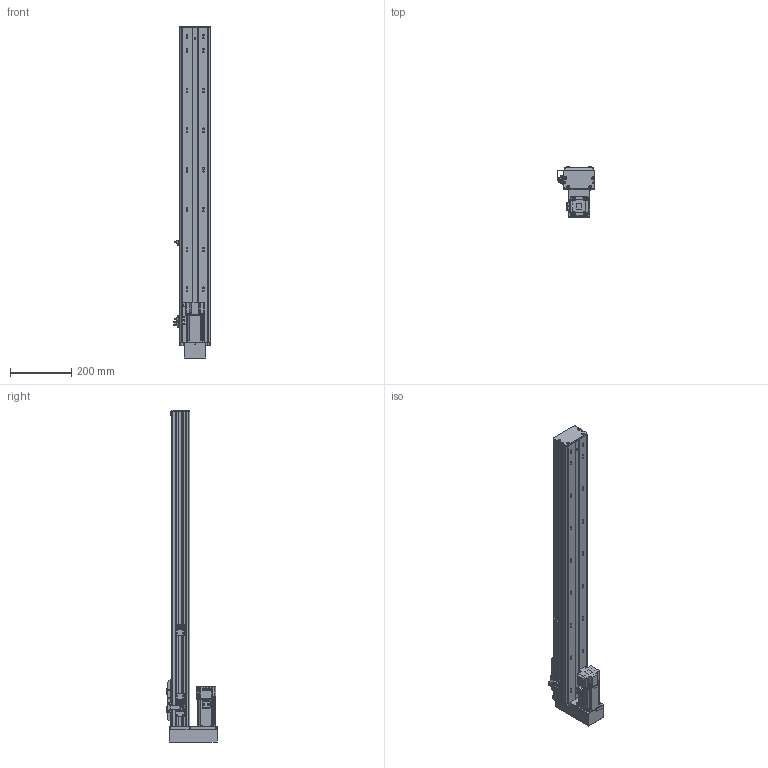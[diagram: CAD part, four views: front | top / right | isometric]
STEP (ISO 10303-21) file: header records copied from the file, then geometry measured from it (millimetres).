
FILE_DESCRIPTION (( 'STEP AP203' ), '1' );
FILE_NAME ('BOSW100-850-1610-1P-DM-M400W-O-S3（方程式2016）.step', '2020-10-10T06:47:52', ( '' ), ( '' ), 'SwSTEP 2.0', 'SolidWorks 2016', '' );
FILE_SCHEMA (( 'CONFIG_CONTROL_DESIGN' ));
Length unit declared in the file: millimetre
Products named in the file (14): S400W(SMA-L040); BOSW-100-1P-DM-宽轨-侧板-850客户图纸; BOSW-100-綴裔啣; BOSW-100-1P-DM-850諦誧芞; 俋境嫖覜嘐隅啣; BOSW&TW-100-1P-賑雄釱欶; BOS-100-DM鎮湛假蚾啣; BOSW-100-1P-DM-宽轨-钢带-850客户图纸; 新结构AIMSW-100-1P-宽&高轨共用-滑动座上组件; BOSW&TW-100-俋离覜茼え; BOSW100-850-1610-1P-DM-M400W-O-S3（方程式2016）; BOSW&TW-100-詩湍揤沭(陔賦凳); 放大器内置U型微型光电传感器PM-L65; BOS100-DM鎮湛欶
Assembly tree (19 placements, depth 2):
  BOSW100-850-1610-1P-DM-M400W-O-S3（方程式2016）
    BOSW-100-1P-DM-850諦誧芞
    BOSW-100-綴裔啣
    新结构AIMSW-100-1P-宽&高轨共用-滑动座上组件
    S400W(SMA-L040)
    BOSW&TW-100-詩湍揤沭(陔賦凳)  x2
    BOSW&TW-100-1P-賑雄釱欶
    BOSW&TW-100-俋离覜茼え
    俋境嫖覜嘐隅啣  x3
    放大器内置U型微型光电传感器PM-L65  x3
    BOSW-100-1P-DM-宽轨-侧板-850客户图纸  x2
    BOSW-100-1P-DM-宽轨-钢带-850客户图纸
    BOS100-DM鎮湛欶
    BOS-100-DM鎮湛假蚾啣
Bounding box: 120.9 x 164 x 1086 mm (x, y, z)
Volume: 2372961.8 mm3; surface area: 1100376.9 mm2
Topology: 19 solids, 19 shells, 2582 faces, 6824 edges, 4365 vertices
Faces by surface type: plane 1271, cylinder 835, bspline 271, cone 157, torus 36, sphere 12
Entity records: 71311 total; most frequent: CARTESIAN_POINT 21214, ORIENTED_EDGE 10204, DIRECTION 9898, EDGE_CURVE 5102, AXIS2_PLACEMENT_3D 3514, VERTEX_POINT 3267, VECTOR 2870, LINE 2870
